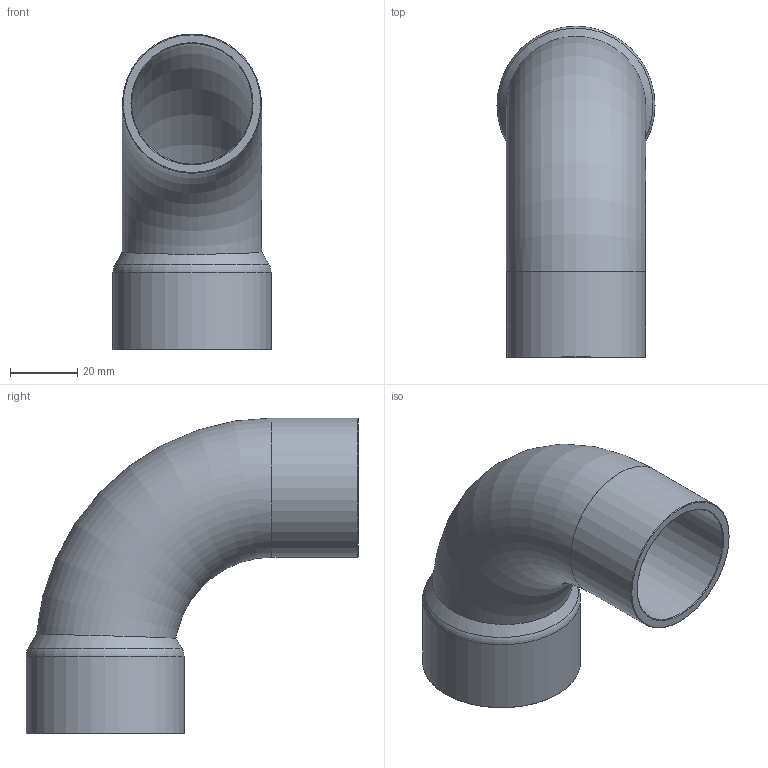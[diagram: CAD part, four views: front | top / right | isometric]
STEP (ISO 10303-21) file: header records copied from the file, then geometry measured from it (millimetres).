
FILE_DESCRIPTION((''),'2;1');
FILE_NAME('G:\SANHA-Ternat\Technik\Management\Bouwmaten + markeringen\z-maattekeningen 3D\29000s\29001A158_3d.stp','2017-07-26T10:18:39',('vdvijverd'),(''),'Autodesk Inventor 2009','Autodesk Inventor 2009','');
FILE_SCHEMA(('AUTOMOTIVE_DESIGN { 1 0 10303 214 1 1 1 1 }'));
Length unit declared in the file: millimetre
Products named in the file (1): 29001A158_3d
Bounding box: 46.85 x 98.43 x 93.64 mm (x, y, z)
Volume: 42936.4 mm3; surface area: 32457.8 mm2
Topology: 1 solids, 1 shells, 18 faces, 34 edges, 20 vertices
Faces by surface type: cone 6, plane 4, cylinder 4, torus 3, bspline 1
Full cylindrical faces by diameter (mm): 35.82 x1, 41.22 x1, 41.455 x1, 46.855 x1
Entity records: 504 total; most frequent: CARTESIAN_POINT 175, DIRECTION 68, ORIENTED_EDGE 36, EDGE_LOOP 36, AXIS2_PLACEMENT_3D 34, VERTEX_POINT 18, EDGE_CURVE 18, FACE_OUTER_BOUND 18
